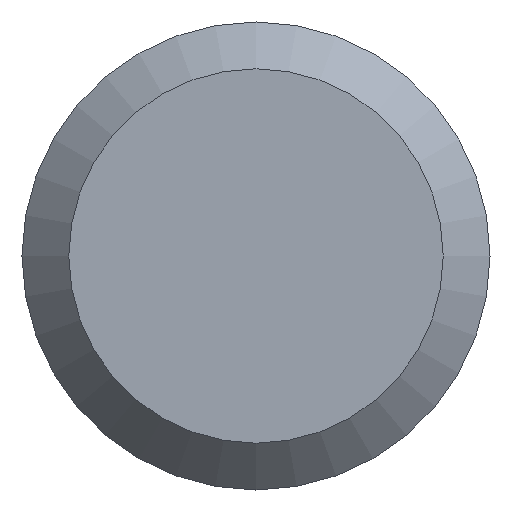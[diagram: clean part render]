
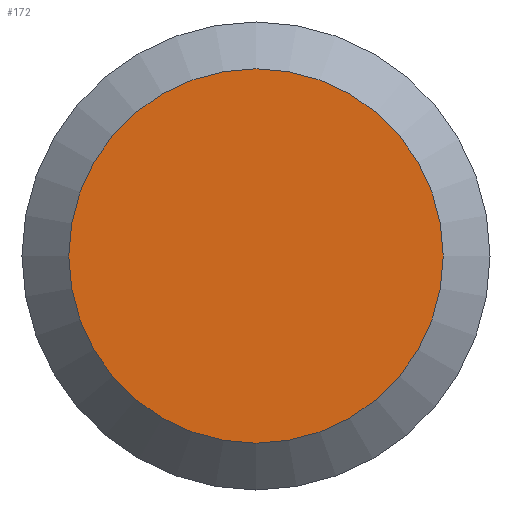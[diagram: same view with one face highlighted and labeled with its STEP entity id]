
A CAD part, left-side view. The second image highlights one B-rep face of the part: STEP entity #172.
In plain terms, the highlighted planar face has unit normal (-1, 0, 0).
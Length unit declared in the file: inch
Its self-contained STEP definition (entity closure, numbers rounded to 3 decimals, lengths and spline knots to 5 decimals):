
#30 = AXIS2_PLACEMENT_3D ( 'NONE', #116, #115, #114 ) ;
#40 = DIRECTION ( 'NONE',  ( 0., 0., -1. ) ) ;
#42 = CARTESIAN_POINT ( 'NONE',  ( 0., 0., -0.09375 ) ) ;
#57 = DIRECTION ( 'NONE',  ( 1., 0., 0. ) ) ;
#82 = ORIENTED_EDGE ( 'NONE', *, *, #224, .T. ) ;
#90 = AXIS2_PLACEMENT_3D ( 'NONE', #157, #57, #40 ) ;
#114 = DIRECTION ( 'NONE',  ( 0., 0., -1. ) ) ;
#115 = DIRECTION ( 'NONE',  ( -1., 0., 0. ) ) ;
#116 = CARTESIAN_POINT ( 'NONE',  ( 0., 0., 0. ) ) ;
#120 = CIRCLE ( 'NONE', #30, 0.09375 ) ;
#140 = EDGE_LOOP ( 'NONE', ( #82 ) ) ;
#143 = VERTEX_POINT ( 'NONE', #42 ) ;
#157 = CARTESIAN_POINT ( 'NONE',  ( 0., 0.11719, 0. ) ) ;
#172 = ADVANCED_FACE ( 'NONE', ( #215 ), #232, .F. ) ;
#215 = FACE_OUTER_BOUND ( 'NONE', #140, .T. ) ;
#224 = EDGE_CURVE ( 'NONE', #143, #143, #120, .T. ) ;
#232 = PLANE ( 'NONE',  #90 ) ;
